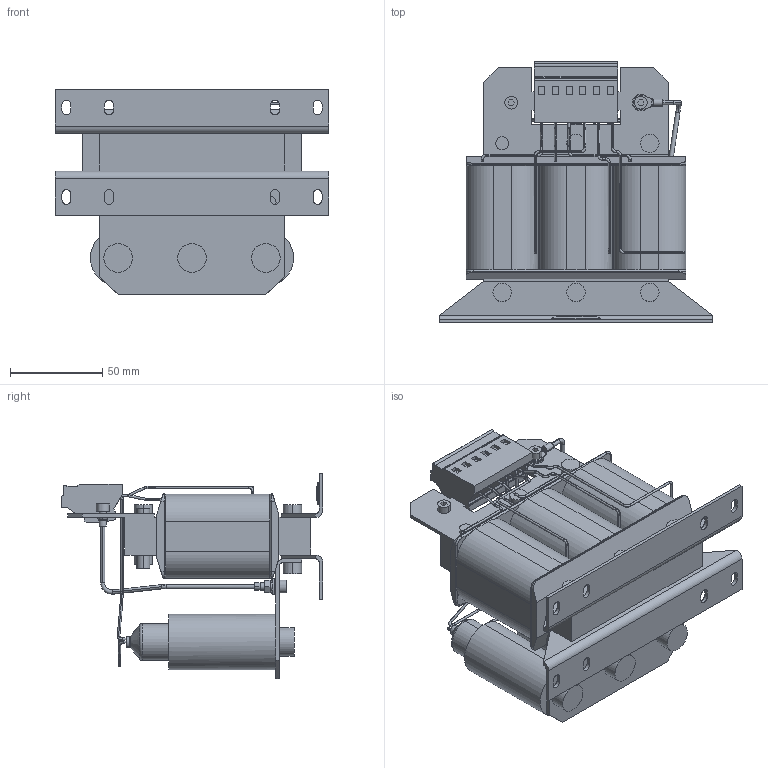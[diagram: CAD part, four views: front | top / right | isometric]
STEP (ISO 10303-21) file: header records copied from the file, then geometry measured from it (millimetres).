
FILE_DESCRIPTION (( 'STEP AP214' ), '1' );
FILE_NAME ('00Z1GX4-0009.STEP', '2023-03-07T14:45:50', ( '' ), ( '' ), 'SwSTEP 2.0', 'SolidWorks 2022', '' );
FILE_SCHEMA (( 'AUTOMOTIVE_DESIGN' ));
Length unit declared in the file: millimetre
Products named in the file (1): 00Z1GX4-0009
Bounding box: 148 x 141.7 x 111.4 mm (x, y, z)
Volume: 606036.8 mm3; surface area: 116450.5 mm2
Topology: 1 solids, 1 shells, 702 faces, 1800 edges, 1141 vertices
Faces by surface type: plane 281, cylinder 267, torus 116, bspline 32, cone 6
Entity records: 23740 total; most frequent: CARTESIAN_POINT 6193, DIRECTION 3717, ORIENTED_EDGE 3600, EDGE_CURVE 1800, AXIS2_PLACEMENT_3D 1445, VERTEX_POINT 1141, VECTOR 827, LINE 827
